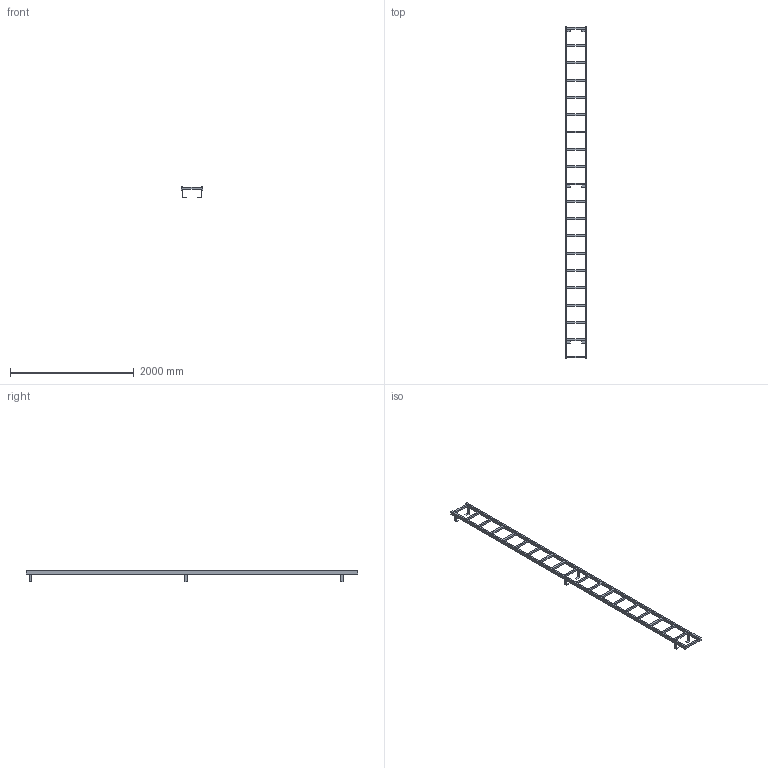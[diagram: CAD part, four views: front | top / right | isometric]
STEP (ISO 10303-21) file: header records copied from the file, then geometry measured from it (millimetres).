
FILE_DESCRIPTION((''),'2;1');
FILE_NAME('017_000109','2017-06-12T',('set'),('HUBER SE'),'PRO/ENGINEER BY PARAMETRIC TECHNOLOGY CORPORATION, 2015280','PRO/ENGINEER BY PARAMETRIC TECHNOLOGY CORPORATION, 2015280','');
FILE_SCHEMA(('CONFIG_CONTROL_DESIGN'));
Length unit declared in the file: millimetre
Products named in the file (1): 017_000109
Bounding box: 350 x 5370 x 178.5 mm (x, y, z)
Volume: 20801940 mm3; surface area: 2540292 mm2
Topology: 1 solids, 1 shells, 138 faces, 509 edges, 367 vertices
Faces by surface type: plane 138
Entity records: 5306 total; most frequent: CARTESIAN_POINT 1075, ORIENTED_EDGE 816, DIRECTION 780, VECTOR 462, LINE 462, EDGE_CURVE 408, VERTEX_POINT 266, EDGE_LOOP 170
